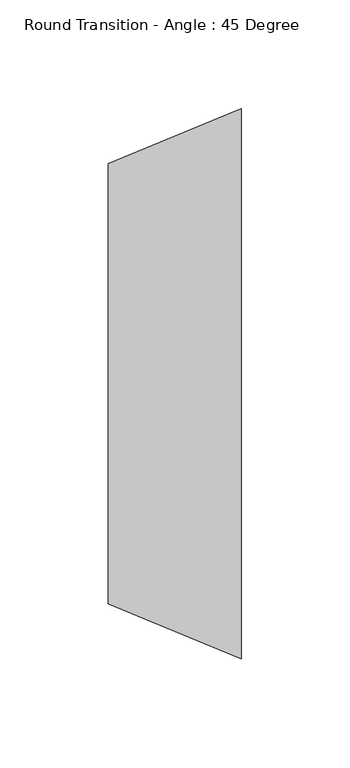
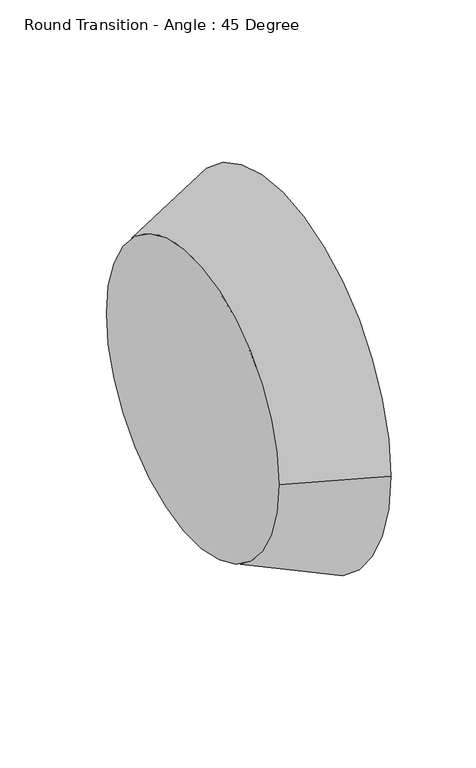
"""IFC4 building model written with IfcOpenShell, lengths in millimetres: duct fitting geometry, Round Transition - Angle : 45 Degree."""

import ifcopenshell
import ifcopenshell.guid

model = None  # the IFC model being written
_history = None  # IfcOwnerHistory: only IFC2X3 demands one
_inside = {}  # id of a spatial element -> (the spatial element, [elements in it])
_under = {}  # id of a project, library or spatial element -> (it, [spatial elements below it])
_declared = {}  # id of a project -> (the project, [libraries it declares])
_typed = {}  # id of a type object -> (the type object, [elements of that type])
_made_of = {}  # id of a material, layer set ... -> (it, [elements and type objects made of it])


def new_model(schema):
    """Start an empty IFC model of exactly this schema.

    Asked for "IFC4X3", IfcOpenShell would pick the latest addendum, in which some entities
    have other attributes; the version numbers below select the first issue.
    IFC2X3 requires an IfcOwnerHistory on every rooted entity: one is made here for all.
    """
    global model, _history
    if schema == "IFC4X3":
        model = ifcopenshell.file(schema_version=(4, 3, 0, 0))
    else:
        model = ifcopenshell.file(schema=schema)
    _inside.clear()
    _under.clear()
    _declared.clear()
    _typed.clear()
    _made_of.clear()
    _history = None
    if model.schema == "IFC2X3":
        org = make("IfcOrganization", Name="unknown")
        user = make(
            "IfcPersonAndOrganization",
            ThePerson=make("IfcPerson", FamilyName="unknown"),
            TheOrganization=org,
        )
        app = make(
            "IfcApplication",
            ApplicationDeveloper=org,
            Version="unknown",
            ApplicationFullName="unknown",
            ApplicationIdentifier="unknown",
        )
        _history = make(
            "IfcOwnerHistory",
            OwningUser=user,
            OwningApplication=app,
            ChangeAction="ADDED",
            CreationDate=0,
        )
    return model


def make(cls, **values):
    """One entity of the class cls with the attributes given. An attribute that is None is left unset."""
    return model.create_entity(
        cls, **{name: value for name, value in values.items() if value is not None}
    )


def rooted(cls, **values):
    """An entity with a GlobalId (a new one), such as an element, a storey or a relation."""
    return make(cls, GlobalId=ifcopenshell.guid.new(), OwnerHistory=_history, **values)


def si_unit(unit_type, name, prefix=None):
    """IfcSIUnit, for example si_unit("LENGTHUNIT", "METRE", prefix="MILLI")."""
    return make("IfcSIUnit", UnitType=unit_type, Prefix=prefix, Name=name)


def assignment(units):
    """IfcUnitAssignment: the units of a project."""
    return None if units is None else make("IfcUnitAssignment", Units=units)


def point(xyz):
    """IfcCartesianPoint."""
    return None if xyz is None else make("IfcCartesianPoint", Coordinates=xyz)


def direction(xyz):
    """IfcDirection."""
    return None if xyz is None else make("IfcDirection", DirectionRatios=xyz)


def frame(location, z_axis=None, x_axis=None):
    """IfcAxis2Placement3D, a coordinate frame: its origin and axes. An axis left out is left unset."""
    return make(
        "IfcAxis2Placement3D",
        Location=point(location),
        Axis=direction(z_axis),
        RefDirection=direction(x_axis),
    )


def origin():
    """The frame at (0, 0, 0) with its axes left unset."""
    return frame((0.0, 0.0, 0.0))


def place(relative_to, where):
    """IfcLocalPlacement: puts the frame where relative to a parent placement (None: the world)."""
    return make(
        "IfcLocalPlacement", PlacementRelTo=relative_to, RelativePlacement=where
    )


def context(
    kind, dimensions, precision=None, world=None, true_north=None, identifier=None
):
    """IfcGeometricRepresentationContext, for example the 3D "Model" context."""
    return make(
        "IfcGeometricRepresentationContext",
        ContextIdentifier=identifier,
        ContextType=kind,
        CoordinateSpaceDimension=dimensions,
        Precision=precision,
        WorldCoordinateSystem=world,
        TrueNorth=true_north,
    )


def project(units=None, contexts=None):
    """IfcProject with its units and contexts."""
    return rooted(
        "IfcProject",
        Name="project",
        RepresentationContexts=contexts,
        UnitsInContext=assignment(units),
    )


def spatial(cls, under=None, at=None, **own):
    """A site, building, storey or space (cls), placed at a placement, below another one or the project."""
    s = rooted(cls, ObjectPlacement=at, **own)
    if under is not None:
        _under.setdefault(under.id(), (under, []))[1].append(s)
    return s


def polyline(points):
    """IfcPolyline through the points."""
    return make("IfcPolyline", Points=[point(p) for p in points])


def circle_curve(where, radius):
    """IfcCircle in the frame where."""
    return make("IfcCircle", Position=where, Radius=radius)


def shape(context_of_items, identifier, shape_type, items):
    """IfcShapeRepresentation: the items that make up one representation, for example the "Body"."""
    return make(
        "IfcShapeRepresentation",
        ContextOfItems=context_of_items,
        RepresentationIdentifier=identifier,
        RepresentationType=shape_type,
        Items=items,
    )


def source(mapping_origin, context_of_items, identifier, shape_type, items):
    """IfcRepresentationMap: a shape defined once, which mapped items show again and again."""
    return make(
        "IfcRepresentationMap",
        MappingOrigin=mapping_origin,
        MappedRepresentation=shape(context_of_items, identifier, shape_type, items),
    )


def transform(
    local_origin,
    x_axis=None,
    y_axis=None,
    z_axis=None,
    scale=None,
    scale2=None,
    scale3=None,
    uniform=True,
):
    """IfcCartesianTransformationOperator3D, or its non-uniform kind. x_axis, y_axis, z_axis: its Axis1, 2, 3."""
    if uniform:
        return make(
            "IfcCartesianTransformationOperator3D",
            Axis1=direction(x_axis),
            Axis2=direction(y_axis),
            LocalOrigin=point(local_origin),
            Scale=scale,
            Axis3=direction(z_axis),
        )
    return make(
        "IfcCartesianTransformationOperator3DnonUniform",
        Axis1=direction(x_axis),
        Axis2=direction(y_axis),
        LocalOrigin=point(local_origin),
        Scale=scale,
        Axis3=direction(z_axis),
        Scale2=scale2,
        Scale3=scale3,
    )


def mapped(mapping_source, mapping_target):
    """IfcMappedItem: shows the shape of a source again, moved by a transform."""
    return make(
        "IfcMappedItem", MappingSource=mapping_source, MappingTarget=mapping_target
    )


def made_of(thing, what):
    """Note that an element or type object is made of a material, layer set ...; save() writes the relation."""
    if what is not None:
        _made_of.setdefault(what.id(), (what, []))[1].append(thing)
    return thing


def element(
    cls,
    number,
    at=None,
    inside=None,
    cuts=None,
    type_object=None,
    material=None,
    context=None,
    identifier="Body",
    shape_type=None,
    held_by="IfcProductDefinitionShape",
    body=None,
    shapes=None,
    **own,
):
    """One element of the class cls, such as IfcWall. Its Tag is "e" and its number.

    at: its placement. inside: the storey or other place that contains it. cuts: it is an
    opening in that element (IfcRelVoidsElement). A single representation is given by context,
    identifier, shape_type and body (its items); several are given by shapes. held_by: the class
    of the entity that holds the representations. save() writes the other relations.
    """
    e = rooted(cls, Tag="e%d" % number, ObjectPlacement=at, **own)
    if body is not None:
        shapes = [shape(context, identifier, shape_type, body)]
    if shapes is not None:
        e.Representation = make(held_by, Representations=shapes)
    if inside is not None:
        _inside.setdefault(inside.id(), (inside, []))[1].append(e)
    if cuts is not None:
        rooted(
            "IfcRelVoidsElement", RelatingBuildingElement=cuts, RelatedOpeningElement=e
        )
    if type_object is not None:
        _typed.setdefault(type_object.id(), (type_object, []))[1].append(e)
    return made_of(e, material)


def aggregate(whole, parts):
    """IfcRelAggregates: a whole, such as a stair, and the parts it consists of."""
    return rooted("IfcRelAggregates", RelatingObject=whole, RelatedObjects=parts)


def save(model, path):
    """Write the relations noted so far, then the file.

    IfcRelAggregates (storeys below a building ...), IfcRelContainedInSpatialStructure (elements
    in a storey), IfcRelDefinesByType, IfcRelAssociatesMaterial and IfcRelDeclares: one each for
    every whole, place, type object, material and project.
    """
    for whole, parts in _under.values():
        aggregate(whole, parts)
    for where, things in _inside.values():
        rooted(
            "IfcRelContainedInSpatialStructure",
            RelatedElements=things,
            RelatingStructure=where,
        )
    for kind, things in _typed.values():
        rooted("IfcRelDefinesByType", RelatedObjects=things, RelatingType=kind)
    for what, things in _made_of.values():
        rooted("IfcRelAssociatesMaterial", RelatedObjects=things, RelatingMaterial=what)
    for by, libraries in _declared.values():
        rooted("IfcRelDeclares", RelatingContext=by, RelatedDefinitions=libraries)
    model.write(path)


def plane_surface(at):
    """IfcPlane: the flat surface through the origin of the frame at, square to its z axis."""
    return make("IfcPlane", Position=at)


def revolved_surface(curve, axis_point, axis_direction):
    """IfcSurfaceOfRevolution: the curve turned about the line through axis_point along axis_direction."""
    return make(
        "IfcSurfaceOfRevolution",
        SweptCurve=make("IfcArbitraryOpenProfileDef", ProfileType="CURVE", Curve=curve),
        AxisPosition=make("IfcAxis1Placement", Location=point(axis_point), Axis=direction(axis_direction)),
    )


def advanced_brep(points, edges, surfaces, faces):
    """IfcAdvancedBrep: a solid bounded by faces that lie on surfaces and meet in shared edges.

    An edge is (start, end): straight between two places in points (the first is 0);
    or (start, end, curve); or (start, end, curve, False) where it runs against its curve.
    A face is (place in surfaces, loops), or (place, loops, False) where it looks against
    its surface's normal. A loop lists edges by number (the first is 1), with a minus sign
    where the edge is run from its end to its start. The first loop is the outer one.
    """
    corners = [point(p) for p in points]
    vertices = [make("IfcVertexPoint", VertexGeometry=c) for c in corners]
    made = []
    for start, end, *more in edges:
        made.append(
            make(
                "IfcEdgeCurve",
                EdgeStart=vertices[start],
                EdgeEnd=vertices[end],
                EdgeGeometry=more[0] if more else make("IfcPolyline", Points=[corners[start], corners[end]]),
                SameSense=more[1] if len(more) > 1 else True,
            )
        )
    hull = []
    for where, loops, *sense in faces:
        bounds = []
        for j, loop in enumerate(loops):
            ring = [make("IfcOrientedEdge", EdgeElement=made[abs(k) - 1], Orientation=k > 0) for k in loop]
            bounds.append(
                make(
                    "IfcFaceOuterBound" if j == 0 else "IfcFaceBound",
                    Bound=make("IfcEdgeLoop", EdgeList=ring),
                    Orientation=True,
                )
            )
        hull.append(make("IfcAdvancedFace", Bounds=bounds, FaceSurface=surfaces[where], SameSense=sense[0] if sense else True))
    return make("IfcAdvancedBrep", Outer=make("IfcClosedShell", CfsFaces=hull))


def round_transition_angle_45_degree_6c335ea7(model_context):
    return source(origin(), model_context, "Body", "AdvancedBrep", [
        advanced_brep(
        [(61.3210245, -127.0, 0.0), (61.3210245, 127.0, 0.0), (0.0, -101.6, 0.0), (0.0, 101.6, 0.0)],
        [
            (0, 1, circle_curve(frame((61.3210245, 0.0, 0.0), z_axis=(1.0, 0.0, 0.0), x_axis=(0.0, -1.0, 0.0)), 127.0)),
            (1, 0, circle_curve(frame((61.3210245, 0.0, 0.0), z_axis=(1.0, 0.0, 0.0), x_axis=(0.0, 1.0, 0.0)), 127.0)),
            (2, 3, circle_curve(frame((0.0, 0.0, 0.0), z_axis=(-1.0, 0.0, 0.0), x_axis=(0.0, 1.0, 0.0)), 101.6)),
            (3, 2, circle_curve(frame((0.0, 0.0, 0.0), z_axis=(-1.0, 0.0, 0.0), x_axis=(0.0, -1.0, 0.0)), 101.6)),
            (3, 1),
            (0, 2),
        ],
        [
            plane_surface(frame((61.3210245, 0.0, 0.0), z_axis=(1.0, 0.0, 0.0), x_axis=(0.0, 0.0, -1.0))),
            plane_surface(frame((0.0, 0.0, 0.0), z_axis=(-1.0, 0.0, 0.0), x_axis=(0.0, 0.0, -1.0))),
            revolved_surface(polyline([(0.0, 101.59999999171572, 0.0), (61.32102450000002, 127.0, 0.0)]), (-245.2840979, 0.0, 0.0), (1.0, 0.0, 0.0)),
            revolved_surface(polyline([(0.0, -101.59999999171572, 0.0), (61.32102450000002, -127.0, 0.0)]), (-245.2840979, 0.0, 0.0), (1.0, 0.0, 0.0)),
        ],
        [
            (0, [[1, 2]]),
            (1, [[3, 4]]),
            (2, [[-4, 5, -1, 6]]),
            (3, [[-3, -6, -2, -5]]),
        ],
    ),
    ])


if __name__ == "__main__":
    model = new_model("IFC4")
    model_context = context("Model", 3, world=origin())
    ifc_project = project(units=[si_unit("LENGTHUNIT", "METRE", prefix="MILLI")], contexts=[model_context])
    site = spatial("IfcSite", under=ifc_project)
    building = spatial("IfcBuilding", under=site)
    placement = place(None, origin())
    round_transition_angle_45_degree_shape = round_transition_angle_45_degree_6c335ea7(model_context)
    element("IfcDuctFitting", 1, ObjectType="Round Transition - Angle : 45 Degree", at=placement, inside=building, context=model_context, shape_type="MappedRepresentation", body=[
        mapped(round_transition_angle_45_degree_shape, transform((0.0, 0.0, 0.0), x_axis=(1.0, 0.0, 0.0), y_axis=(0.0, 1.0, 0.0), z_axis=(0.0, 0.0, 1.0))),
    ])
    save(model, "model.ifc")
